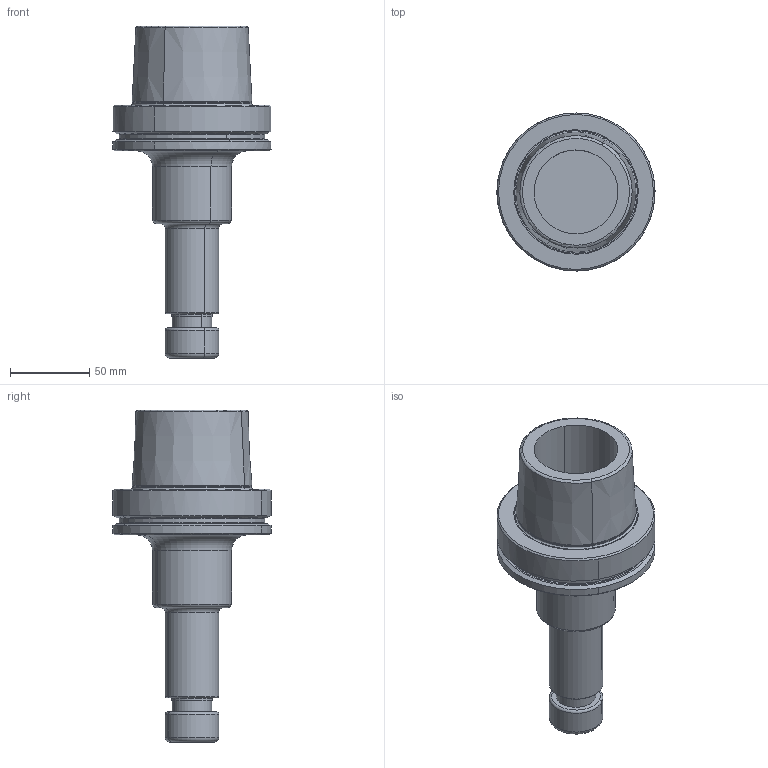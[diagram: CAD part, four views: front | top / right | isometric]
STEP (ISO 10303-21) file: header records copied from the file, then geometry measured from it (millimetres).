
FILE_DESCRIPTION(('CATIA V5 STEP','CAx-IF Rec.Pracs.--- Model Styling and Organization---1.2---2011-12-15'),'2;1');
FILE_NAME('\\nas01\drv1\utils\eitdev\rte\eit\transmagicconvert\db\out\635922664980929066\4561222-L-B.stp','2016-02-28T12:28:30+00:00',('none'),('none'),'CATIA Version 5 Release 21 SP 5 (IN-10)','CATIA V5 STEP AP214','none');
FILE_SCHEMA(('AUTOMOTIVE_DESIGN { 1 0 10303 214 1 1 1 1 }'));
Length unit declared in the file: millimetre
Products named in the file (1): HSK A 100 ER20X160
Bounding box: 99.98 x 100 x 210 mm (x, y, z)
Volume: 452223.8 mm3; surface area: 65540.5 mm2
Topology: 1 solids, 1 shells, 81 faces, 210 edges, 139 vertices
Faces by surface type: cylinder 26, torus 24, cone 20, plane 11
Entity records: 2374 total; most frequent: CARTESIAN_POINT 540, ORIENTED_EDGE 416, DIRECTION 286, EDGE_CURVE 208, AXIS2_PLACEMENT_3D 193, CIRCLE 144, VERTEX_POINT 139, EDGE_LOOP 91
